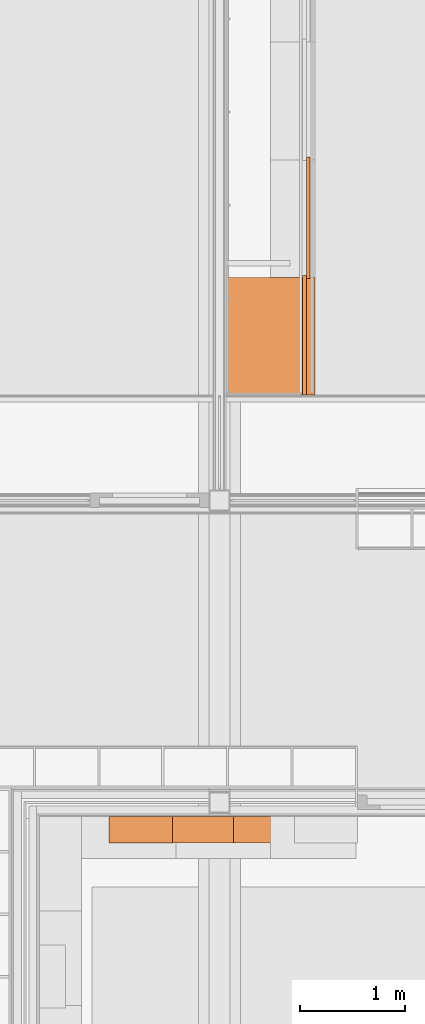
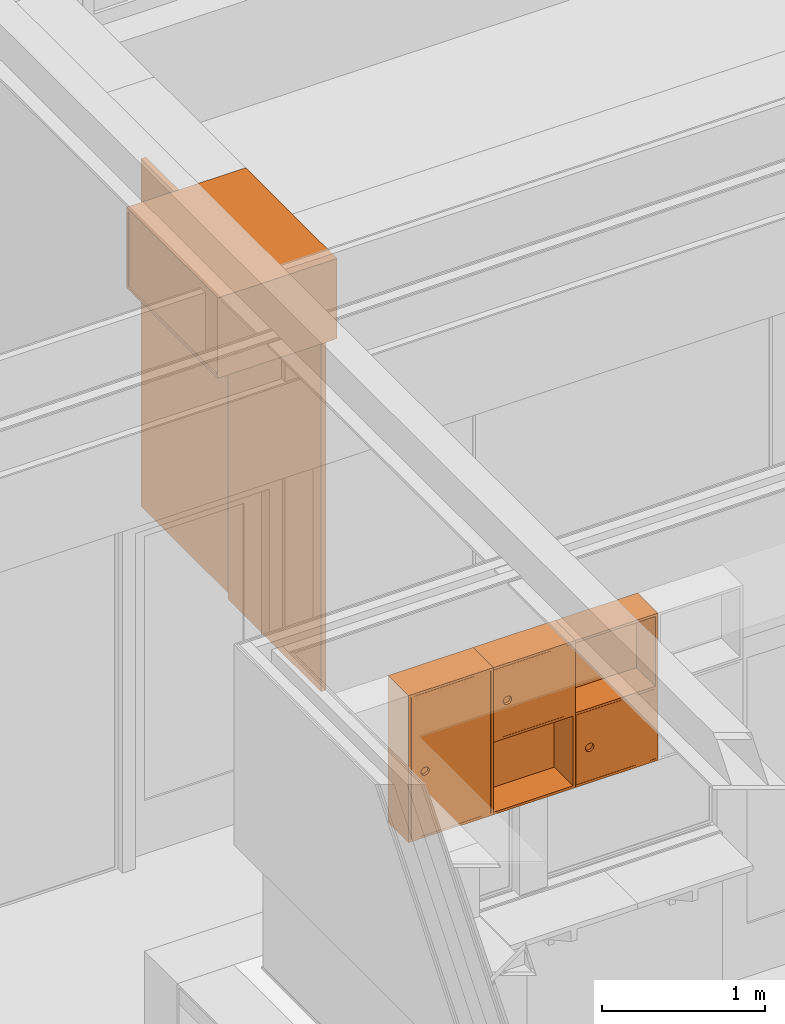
# One storey, part 124 of 137: 6 proxies.
"""IFC2X3 building model written with IfcOpenShell, lengths in millimetres."""

from ifc_helpers import new_model, entity, si_unit, converted_unit, derived_unit, money_unit, direction, frame, origin_with_axes, place, context, subcontext, project, spatial, faceted_brep, source, transform, mapped, type_object, type_shapes, element, save


model = new_model("IFC2X3")

# Units and contexts
model_context = context("Model", 3, precision=0.01, world=origin_with_axes(), true_north=direction((0.0, 1.0)))
body_context = subcontext(model_context, "Body", "Model", "MODEL_VIEW")
ifc_project = project(units=[si_unit("LENGTHUNIT", "METRE", prefix="MILLI"), si_unit("AREAUNIT", "SQUARE_METRE"), si_unit("VOLUMEUNIT", "CUBIC_METRE"), converted_unit("PLANEANGLEUNIT", "DEGREE", entity("IfcPlaneAngleMeasure", 0.0174532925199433), si_unit("PLANEANGLEUNIT", "RADIAN"), dimensions=[0, 0, 0, 0, 0, 0, 0]), money_unit("EUR"), converted_unit("TIMEUNIT", "Year", entity("IfcTimeMeasure", 31556926.0), si_unit("TIMEUNIT", "SECOND"), dimensions=[0, 0, 1, 0, 0, 0, 0]), si_unit("MASSUNIT", "GRAM", prefix="KILO"), si_unit("THERMODYNAMICTEMPERATUREUNIT", "DEGREE_CELSIUS"), si_unit("LUMINOUSINTENSITYUNIT", "LUMEN"), si_unit("ENERGYUNIT", "JOULE", prefix="MEGA"), derived_unit("THERMALCONDUCTANCEUNIT", [(si_unit("POWERUNIT", "WATT"), 1), (si_unit("LENGTHUNIT", "METRE"), -1), (si_unit("THERMODYNAMICTEMPERATUREUNIT", "KELVIN"), -1)]), derived_unit("SPECIFICHEATCAPACITYUNIT", [(si_unit("ENERGYUNIT", "JOULE"), 1), (si_unit("MASSUNIT", "GRAM", prefix="KILO"), -1), (si_unit("THERMODYNAMICTEMPERATUREUNIT", "KELVIN"), -1)]), derived_unit("MASSDENSITYUNIT", [(si_unit("MASSUNIT", "GRAM", prefix="KILO"), 1), (si_unit("VOLUMEUNIT", "CUBIC_METRE"), -1)])], contexts=[model_context])

# Site, building, storey
site_placement = place(None, origin_with_axes())
site = spatial("IfcSite", under=ifc_project, at=site_placement, Name="Site", CompositionType="ELEMENT")
building_placement = place(site_placement, origin_with_axes())
building = spatial("IfcBuilding", under=site, at=building_placement, Name="Naam gebouw", CompositionType="ELEMENT")
storey_placement = place(building_placement, frame((0.0, 0.0, 3960.0), z_axis=(0.0, 0.0, 1.0), x_axis=(1.0, 0.0, 0.0)))
storey = spatial("IfcBuildingStorey", under=building, at=storey_placement, Name="1e verdieping", CompositionType="ELEMENT", Elevation=3960.0)

# Proxies
building_element_proxy_type_1 = type_object("IfcBuildingElementProxyType", Name="gevelbekleding", PredefinedType="NOTDEFINED")
shared_shape_1 = source(origin_with_axes(), body_context, "Body", "Brep", [
    faceted_brep([(577.5, 0.0, 0.0), (577.5, -35.0, 0.0), (572.5, -35.0, 0.0), (572.5, 0.0, 0.0), (577.5, 0.0, 2600.0), (577.5, -35.0, 2600.0), (572.5, -35.0, 2600.0), (572.5, 0.0, 2600.0)], [[[0, 1, 2, 3]], [[4, 5, 1, 0]], [[1, 5, 6, 2]], [[3, 2, 6, 7]], [[0, 3, 7, 4]], [[7, 6, 5, 4]]]),
    faceted_brep([(-577.5, 0.0, 0.0), (-577.5, -35.0, 0.0), (-577.5, -35.0, 2600.0), (-577.5, 0.0, 2600.0), (-572.5000000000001, 0.0, 0.0), (-572.5000000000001, -35.0, 0.0), (-572.5000000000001, -35.0, 2600.0), (-572.5000000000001, 0.0, 2600.0)], [[[0, 1, 2, 3]], [[4, 5, 1, 0]], [[1, 5, 6, 2]], [[3, 2, 6, 7]], [[0, 3, 7, 4]], [[7, 6, 5, 4]]]),
    faceted_brep([(577.5, 0.0, 0.0), (577.5, -35.0, 0.0), (-577.5, -35.0, 0.0), (-577.5, 0.0, 0.0), (577.5, 0.0, 2600.0), (577.5, -35.0, 2600.0), (-577.5, -35.0, 2600.0), (-577.5, 0.0, 2600.0)], [[[0, 1, 2, 3]], [[4, 5, 1, 0]], [[1, 5, 6, 2]], [[3, 2, 6, 7]], [[0, 3, 7, 4]], [[7, 6, 5, 4]]]),
])
proxy_1_placement = place(storey_placement, frame((18562.49942456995, 25592.99991880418, 0.0), z_axis=(0.0, 0.0, 1.0), x_axis=(0.0, -1.0, 0.0)))
element("IfcBuildingElementProxy", 1, at=proxy_1_placement, inside=storey, type_object=building_element_proxy_type_1, Name="_-", context=body_context, shape_type="MappedRepresentation", body=[
    mapped(shared_shape_1, transform((577.5000000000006, 0.0, 0.0))),
])
shared_shape_2 = source(origin_with_axes(), body_context, "Body", "Brep", [
    faceted_brep([(-570.0, 0.0, 0.0), (-565.0, 0.0, 0.0), (-565.0, -35.0, 0.0), (-570.0, -35.0, 0.0), (-570.0, 0.0, 2600.0), (-565.0, 0.0, 2600.0), (-565.0, -35.0, 2600.0), (-570.0, -35.0, 2600.0)], [[[0, 1, 2, 3]], [[0, 4, 5, 1]], [[1, 5, 6, 2]], [[3, 2, 6, 7]], [[4, 0, 3, 7]], [[5, 4, 7, 6]]]),
    faceted_brep([(570.0, 0.0, 0.0), (570.0, 0.0, 2600.0), (570.0, -35.0, 2600.0), (570.0, -35.0, 0.0), (565.0000000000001, 0.0, 0.0), (565.0000000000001, 0.0, 2600.0), (565.0000000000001, -35.0, 2600.0), (565.0000000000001, -35.0, 0.0)], [[[0, 1, 2, 3]], [[0, 4, 5, 1]], [[1, 5, 6, 2]], [[3, 2, 6, 7]], [[4, 0, 3, 7]], [[5, 4, 7, 6]]]),
    faceted_brep([(-570.0, 0.0, 0.0), (570.0, 0.0, 0.0), (570.0, -35.0, 0.0), (-570.0, -35.0, 0.0), (-570.0, 0.0, 2600.0), (570.0, 0.0, 2600.0), (570.0, -35.0, 2600.0), (-570.0, -35.0, 2600.0)], [[[0, 1, 2, 3]], [[0, 4, 5, 1]], [[1, 5, 6, 2]], [[3, 2, 6, 7]], [[4, 0, 3, 7]], [[5, 4, 7, 6]]]),
])
type_shapes(building_element_proxy_type_1, [shared_shape_1, shared_shape_2])
proxy_2_placement = place(storey_placement, frame((18562.49942456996, 24467.99984810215, 0.0), z_axis=(0.0, 0.0, 1.0), x_axis=(0.0, -1.0, 0.0)))
element("IfcBuildingElementProxy", 2, at=proxy_2_placement, inside=storey, type_object=building_element_proxy_type_1, Name="_-", context=body_context, shape_type="MappedRepresentation", body=[
    mapped(shared_shape_2, transform((570.0000000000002, -34.99999999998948, 0.0))),
])
building_element_proxy_type_2 = type_object("IfcBuildingElementProxyType", Name="Onderkast recht 26", PredefinedType="NOTDEFINED")
shared_shape_3 = source(origin_with_axes(), body_context, "Body", "Brep", [
    faceted_brep([(-1.0, -827.0, 1.0), (-1.0, -845.0, 1.000000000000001), (-1119.000141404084, -845.0, 1.000000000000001), (-1119.000141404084, -827.0, 1.0), (-1.0, -827.0, 599.0), (-1.0, -845.0, 599.0), (-1119.000141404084, -845.0, 599.0), (-1119.000141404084, -827.0, 599.0)], [[[0, 1, 2, 3]], [[4, 5, 1, 0]], [[1, 5, 6, 2]], [[3, 2, 6, 7]], [[0, 3, 7, 4]], [[7, 6, 5, 4]]]),
    faceted_brep([(-18.0, -827.0, 0.0), (-18.0, -827.0, 18.0), (-1102.000141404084, -827.0, 18.0), (-1102.000141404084, -827.0, 0.0), (-18.0, 0.0, 0.0), (-18.0, 0.0, 18.0), (-1102.000141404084, 0.0, 18.0), (-1102.000141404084, 0.0, 0.0)], [[[0, 1, 2, 3]], [[4, 5, 1, 0]], [[1, 5, 6, 2]], [[3, 2, 6, 7]], [[0, 3, 7, 4]], [[7, 6, 5, 4]]]),
    faceted_brep([(-18.0, -827.0, 582.0), (-18.0, -827.0, 600.0), (-1102.000141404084, -827.0, 600.0), (-1102.000141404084, -827.0, 582.0), (-18.0, 0.0, 582.0), (-18.0, 0.0, 600.0), (-1102.000141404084, 0.0, 600.0), (-1102.000141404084, 0.0, 582.0)], [[[0, 1, 2, 3]], [[4, 5, 1, 0]], [[1, 5, 6, 2]], [[3, 2, 6, 7]], [[0, 3, 7, 4]], [[7, 6, 5, 4]]]),
    faceted_brep([(0.0, 0.0, 0.0), (0.0, 0.0, 600.0), (0.0, -827.0, 600.0), (0.0, -827.0, 0.0), (-18.0, 0.0, 0.0), (-18.0, 0.0, 600.0), (-18.0, -827.0, 600.0), (-18.0, -827.0, 0.0)], [[[0, 1, 2, 3]], [[4, 5, 1, 0]], [[1, 5, 6, 2]], [[3, 2, 6, 7]], [[0, 3, 7, 4]], [[7, 6, 5, 4]]]),
    faceted_brep([(-1120.000141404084, -827.0, 0.0), (-1120.000141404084, -827.0, 600.0), (-1120.000141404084, 0.0, 600.0), (-1120.000141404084, 0.0, 0.0), (-1102.000141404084, -827.0, 0.0), (-1102.000141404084, -827.0, 600.0), (-1102.000141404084, 0.0, 600.0), (-1102.000141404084, 0.0, 0.0)], [[[0, 1, 2, 3]], [[4, 5, 1, 0]], [[1, 5, 6, 2]], [[3, 2, 6, 7]], [[0, 3, 7, 4]], [[7, 6, 5, 4]]]),
    faceted_brep([(-1102.000141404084, -9.0, 18.0), (-1102.000141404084, -9.0, 582.0), (-18.00000000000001, -9.0, 582.0), (-18.00000000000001, -9.0, 18.0), (-1102.000141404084, -18.0, 18.0), (-1102.000141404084, -18.0, 582.0), (-18.00000000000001, -18.0, 582.0), (-18.00000000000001, -18.0, 18.0)], [[[0, 1, 2, 3]], [[4, 5, 1, 0]], [[1, 5, 6, 2]], [[3, 2, 6, 7]], [[0, 3, 7, 4]], [[7, 6, 5, 4]]]),
])
proxy_3_placement = place(storey_placement, frame((17762.49942456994, 24447.99942285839, 2600.0), z_axis=(0.0, 0.0, 1.0), x_axis=(0.0, 1.0, 0.0)))
element("IfcBuildingElementProxy", 3, at=proxy_3_placement, inside=storey, type_object=building_element_proxy_type_2, Name="_Leeg", context=body_context, shape_type="MappedRepresentation", body=[
    mapped(shared_shape_3, transform((0.0, 0.0, 0.0))),
])
shared_shape_4 = source(origin_with_axes(), body_context, "Body", "Brep", [
    faceted_brep([(-18.0, -232.0, 541.0000000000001), (-18.0, -232.0, 559.0000000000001), (-581.9999999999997, -232.0, 559.0000000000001), (-581.9999999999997, -232.0, 541.0000000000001), (-18.0, -18.0, 541.0000000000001), (-18.0, -18.0, 559.0000000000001), (-581.9999999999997, -18.0, 559.0000000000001), (-581.9999999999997, -18.0, 541.0000000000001)], [[[0, 1, 2, 3]], [[4, 5, 1, 0]], [[1, 5, 6, 2]], [[3, 2, 6, 7]], [[0, 3, 7, 4]], [[7, 6, 5, 4]]]),
    faceted_brep([(-580.9999999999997, -250.0, 19.00000000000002), (-19.00000000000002, -250.0, 19.00000000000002), (-19.00000000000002, -249.9999999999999, 1081.0), (-580.9999999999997, -249.9999999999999, 1081.0), (-511.1907786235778, -250.0, 505.761783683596), (-508.9807621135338, -250.0, 510.501179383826), (-505.98133329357, -250.0, 514.7848076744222), (-502.2836282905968, -250.0, 518.4825126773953), (-498.0000000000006, -250.0, 521.481941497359), (-493.2606042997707, -250.0, 523.6919580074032), (-488.2094453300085, -250.0, 525.0454119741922), (-483.0000000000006, -250.0, 525.501179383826), (-477.7905546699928, -250.0, 525.0454119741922), (-472.7393957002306, -250.0, 523.6919580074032), (-468.0000000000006, -250.0, 521.4819414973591), (-463.7163717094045, -250.0, 518.4825126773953), (-460.0186667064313, -250.0, 514.7848076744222), (-457.0192378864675, -250.0, 510.501179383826), (-454.8092213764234, -250.0, 505.761783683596), (-453.4557674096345, -250.0, 500.7106247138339), (-453.0000000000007, -250.0, 495.501179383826), (-453.4557674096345, -250.0, 490.2917340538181), (-454.8092213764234, -250.0, 485.2405750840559), (-457.0192378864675, -250.0, 480.501179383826), (-460.0186667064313, -250.0, 476.2175510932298), (-463.7163717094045, -250.0, 472.5198460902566), (-468.0000000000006, -250.0, 469.5204172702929), (-472.7393957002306, -250.0, 467.3104007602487), (-477.7905546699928, -250.0, 465.9569467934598), (-483.0000000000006, -250.0, 465.501179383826), (-488.2094453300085, -250.0, 465.9569467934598), (-493.2606042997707, -250.0, 467.3104007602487), (-498.0000000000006, -250.0, 469.5204172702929), (-502.2836282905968, -250.0, 472.5198460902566), (-505.98133329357, -250.0, 476.2175510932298), (-508.9807621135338, -250.0, 480.501179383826), (-511.1907786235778, -250.0, 485.2405750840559), (-512.5442325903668, -250.0, 490.2917340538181), (-513.0000000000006, -250.0, 495.501179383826), (-512.5442325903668, -250.0, 500.7106247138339), (-580.9999999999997, -232.0, 19.00000000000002), (-19.00000000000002, -232.0, 19.00000000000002), (-19.00000000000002, -231.9999999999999, 1081.0), (-580.9999999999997, -231.9999999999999, 1081.0), (-508.9807621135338, -232.0, 510.501179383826), (-511.1907786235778, -232.0, 505.761783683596), (-505.98133329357, -232.0, 514.7848076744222), (-502.2836282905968, -232.0, 518.4825126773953), (-498.0000000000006, -232.0, 521.481941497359), (-493.2606042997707, -232.0, 523.6919580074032), (-488.2094453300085, -232.0, 525.0454119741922), (-483.0000000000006, -232.0, 525.501179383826), (-477.7905546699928, -232.0, 525.0454119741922), (-472.7393957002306, -232.0, 523.6919580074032), (-468.0000000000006, -232.0, 521.4819414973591), (-463.7163717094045, -232.0, 518.4825126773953), (-460.0186667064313, -232.0, 514.7848076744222), (-457.0192378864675, -232.0, 510.501179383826), (-454.8092213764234, -232.0, 505.761783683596), (-453.4557674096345, -232.0, 500.7106247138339), (-453.0000000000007, -232.0, 495.501179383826), (-453.4557674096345, -232.0, 490.2917340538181), (-454.8092213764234, -232.0, 485.2405750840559), (-457.0192378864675, -232.0, 480.501179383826), (-460.0186667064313, -232.0, 476.2175510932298), (-463.7163717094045, -232.0, 472.5198460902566), (-468.0000000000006, -232.0, 469.5204172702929), (-472.7393957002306, -232.0, 467.3104007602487), (-477.7905546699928, -232.0, 465.9569467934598), (-483.0000000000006, -232.0, 465.501179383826), (-488.2094453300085, -232.0, 465.9569467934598), (-493.2606042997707, -232.0, 467.3104007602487), (-498.0000000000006, -232.0, 469.5204172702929), (-502.2836282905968, -232.0, 472.5198460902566), (-505.98133329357, -232.0, 476.2175510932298), (-508.9807621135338, -232.0, 480.501179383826), (-511.1907786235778, -232.0, 485.2405750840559), (-512.5442325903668, -232.0, 490.2917340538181), (-513.0000000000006, -232.0, 495.501179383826), (-512.5442325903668, -232.0, 500.7106247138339)], [[[0, 1, 2, 3], [4, 5, 6, 7, 8, 9, 10, 11, 12, 13, 14, 15, 16, 17, 18, 19, 20, 21, 22, 23, 24, 25, 26, 27, 28, 29, 30, 31, 32, 33, 34, 35, 36, 37, 38, 39]], [[40, 41, 1, 0]], [[41, 42, 2, 1]], [[42, 43, 3, 2]], [[43, 40, 0, 3]], [[44, 5, 4, 45]], [[46, 6, 5, 44]], [[47, 7, 6, 46]], [[48, 8, 7, 47]], [[49, 9, 8, 48]], [[50, 10, 9, 49]], [[51, 11, 10, 50]], [[52, 12, 11, 51]], [[53, 13, 12, 52]], [[54, 14, 13, 53]], [[55, 15, 14, 54]], [[56, 16, 15, 55]], [[57, 17, 16, 56]], [[58, 18, 17, 57]], [[59, 19, 18, 58]], [[60, 20, 19, 59]], [[61, 21, 20, 60]], [[62, 22, 21, 61]], [[63, 23, 22, 62]], [[64, 24, 23, 63]], [[65, 25, 24, 64]], [[66, 26, 25, 65]], [[67, 27, 26, 66]], [[68, 28, 27, 67]], [[69, 29, 28, 68]], [[70, 30, 29, 69]], [[71, 31, 30, 70]], [[72, 32, 31, 71]], [[73, 33, 32, 72]], [[74, 34, 33, 73]], [[75, 35, 34, 74]], [[76, 36, 35, 75]], [[77, 37, 36, 76]], [[78, 38, 37, 77]], [[79, 39, 38, 78]], [[45, 4, 39, 79]], [[42, 41, 40, 43], [76, 75, 74, 73, 72, 71, 70, 69, 68, 67, 66, 65, 64, 63, 62, 61, 60, 59, 58, 57, 56, 55, 54, 53, 52, 51, 50, 49, 48, 47, 46, 44, 45, 79, 78, 77]]]),
    faceted_brep([(-18.0, -250.0, 0.0), (-18.0, -250.0, 18.0), (-581.9999999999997, -250.0, 18.0), (-581.9999999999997, -250.0, 0.0), (-18.0, 0.0, 0.0), (-18.0, 0.0, 18.0), (-581.9999999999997, 0.0, 18.0), (-581.9999999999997, 0.0, 0.0)], [[[0, 1, 2, 3]], [[4, 5, 1, 0]], [[1, 5, 6, 2]], [[3, 2, 6, 7]], [[0, 3, 7, 4]], [[7, 6, 5, 4]]]),
    faceted_brep([(-18.0, -250.0, 1082.0), (-18.0, -250.0, 1100.0), (-581.9999999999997, -250.0, 1100.0), (-581.9999999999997, -250.0, 1082.0), (-18.0, 0.0, 1082.0), (-18.0, 0.0, 1100.0), (-581.9999999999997, 0.0, 1100.0), (-581.9999999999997, 0.0, 1082.0)], [[[0, 1, 2, 3]], [[4, 5, 1, 0]], [[1, 5, 6, 2]], [[3, 2, 6, 7]], [[0, 3, 7, 4]], [[7, 6, 5, 4]]]),
    faceted_brep([(0.0, 0.0, 0.0), (0.0, 0.0, 1100.0), (0.0, -250.0, 1100.0), (0.0, -250.0, 0.0), (-18.0, 0.0, 0.0), (-18.0, 0.0, 1100.0), (-18.0, -250.0, 1100.0), (-18.0, -250.0, 0.0)], [[[0, 1, 2, 3]], [[4, 5, 1, 0]], [[1, 5, 6, 2]], [[3, 2, 6, 7]], [[0, 3, 7, 4]], [[7, 6, 5, 4]]]),
    faceted_brep([(-599.9999999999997, -250.0, 0.0), (-599.9999999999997, -250.0, 1100.0), (-599.9999999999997, 0.0, 1100.0), (-599.9999999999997, 0.0, 0.0), (-581.9999999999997, -250.0, 0.0), (-581.9999999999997, -250.0, 1100.0), (-581.9999999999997, 0.0, 1100.0), (-581.9999999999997, 0.0, 0.0)], [[[0, 1, 2, 3]], [[4, 5, 1, 0]], [[1, 5, 6, 2]], [[3, 2, 6, 7]], [[0, 3, 7, 4]], [[7, 6, 5, 4]]]),
    faceted_brep([(-581.9999999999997, -9.0, 18.0), (-581.9999999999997, -9.0, 1082.0), (-18.00000000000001, -9.0, 1082.0), (-18.00000000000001, -9.0, 18.0), (-581.9999999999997, -18.0, 18.0), (-581.9999999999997, -18.0, 1082.0), (-18.00000000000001, -18.0, 1082.0), (-18.00000000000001, -18.0, 18.0)], [[[0, 1, 2, 3]], [[4, 5, 1, 0]], [[1, 5, 6, 2]], [[3, 2, 6, 7]], [[0, 3, 7, 4]], [[7, 6, 5, 4]]]),
])
proxy_4_placement = place(storey_placement, frame((17250.99945671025, 19314.9998112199, 2100.000000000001), z_axis=(0.0, 0.0, 1.0), x_axis=(1.0, 0.0, 0.0)))
element("IfcBuildingElementProxy", 4, at=proxy_4_placement, inside=storey, type_object=building_element_proxy_type_2, Name="_Leeg", context=body_context, shape_type="MappedRepresentation", body=[
    mapped(shared_shape_4, transform((0.0, 0.0, 0.0))),
])
shared_shape_5 = source(origin_with_axes(), body_context, "Body", "Brep", [
    faceted_brep([(-18.0, -250.0, 541.0000000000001), (-18.0, -250.0, 559.0000000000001), (-581.9999999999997, -250.0, 559.0000000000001), (-581.9999999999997, -250.0, 541.0000000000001), (-18.0, -18.0, 541.0000000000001), (-18.0, -18.0, 559.0000000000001), (-581.9999999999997, -18.0, 559.0000000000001), (-581.9999999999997, -18.0, 541.0000000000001)], [[[0, 1, 2, 3]], [[4, 5, 1, 0]], [[1, 5, 6, 2]], [[3, 2, 6, 7]], [[0, 3, 7, 4]], [[7, 6, 5, 4]]]),
    faceted_brep([(-580.9999999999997, -250.0, 19.00000000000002), (-19.00000000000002, -250.0, 19.00000000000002), (-19.00000000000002, -250.0, 540.0000000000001), (-580.9999999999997, -250.0, 540.0000000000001), (-511.1907786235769, -250.0, 275.7606042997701), (-508.9807621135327, -250.0, 280.5), (-505.981333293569, -250.0, 284.7836282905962), (-502.2836282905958, -250.0, 288.4813332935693), (-497.9999999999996, -250.0, 291.4807621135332), (-493.2606042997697, -250.0, 293.6907786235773), (-488.2094453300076, -250.0, 295.0442325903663), (-482.9999999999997, -250.0, 295.5000000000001), (-477.7905546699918, -250.0, 295.0442325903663), (-472.7393957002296, -250.0, 293.6907786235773), (-467.9999999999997, -250.0, 291.4807621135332), (-463.7163717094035, -250.0, 288.4813332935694), (-460.0186667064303, -250.0, 284.7836282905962), (-457.0192378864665, -250.0, 280.5000000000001), (-454.8092213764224, -250.0, 275.7606042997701), (-453.4557674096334, -250.0, 270.709445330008), (-452.9999999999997, -250.0, 265.5000000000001), (-453.4557674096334, -250.0, 260.2905546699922), (-454.8092213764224, -250.0, 255.23939570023), (-457.0192378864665, -250.0, 250.5000000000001), (-460.0186667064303, -250.0, 246.2163717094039), (-463.7163717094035, -250.0, 242.5186667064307), (-467.9999999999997, -250.0, 239.5192378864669), (-472.7393957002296, -250.0, 237.3092213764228), (-477.7905546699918, -250.0, 235.9557674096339), (-482.9999999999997, -250.0, 235.5000000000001), (-488.2094453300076, -250.0, 235.9557674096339), (-493.2606042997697, -250.0, 237.3092213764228), (-497.9999999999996, -250.0, 239.519237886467), (-502.2836282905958, -250.0, 242.5186667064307), (-505.981333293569, -250.0, 246.2163717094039), (-508.9807621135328, -250.0, 250.5000000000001), (-511.1907786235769, -250.0, 255.23939570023), (-512.5442325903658, -250.0, 260.2905546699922), (-512.9999999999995, -250.0, 265.5000000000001), (-512.5442325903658, -250.0, 270.709445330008), (-580.9999999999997, -232.0, 19.00000000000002), (-19.00000000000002, -232.0, 19.00000000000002), (-19.00000000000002, -232.0, 540.0000000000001), (-580.9999999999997, -232.0, 540.0000000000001), (-508.9807621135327, -232.0, 280.5), (-511.1907786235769, -232.0, 275.7606042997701), (-505.981333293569, -232.0, 284.7836282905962), (-502.2836282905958, -232.0, 288.4813332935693), (-497.9999999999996, -232.0, 291.4807621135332), (-493.2606042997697, -232.0, 293.6907786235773), (-488.2094453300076, -232.0, 295.0442325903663), (-482.9999999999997, -232.0, 295.5000000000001), (-477.7905546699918, -232.0, 295.0442325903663), (-472.7393957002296, -232.0, 293.6907786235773), (-467.9999999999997, -232.0, 291.4807621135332), (-463.7163717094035, -232.0, 288.4813332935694), (-460.0186667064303, -232.0, 284.7836282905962), (-457.0192378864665, -232.0, 280.5000000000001), (-454.8092213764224, -232.0, 275.7606042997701), (-453.4557674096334, -232.0, 270.709445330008), (-452.9999999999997, -232.0, 265.5000000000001), (-453.4557674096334, -232.0, 260.2905546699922), (-454.8092213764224, -232.0, 255.23939570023), (-457.0192378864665, -232.0, 250.5000000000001), (-460.0186667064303, -232.0, 246.2163717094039), (-463.7163717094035, -232.0, 242.5186667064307), (-467.9999999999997, -232.0, 239.5192378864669), (-472.7393957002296, -232.0, 237.3092213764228), (-477.7905546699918, -232.0, 235.9557674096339), (-482.9999999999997, -232.0, 235.5000000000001), (-488.2094453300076, -232.0, 235.9557674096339), (-493.2606042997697, -232.0, 237.3092213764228), (-497.9999999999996, -232.0, 239.519237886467), (-502.2836282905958, -232.0, 242.5186667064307), (-505.981333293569, -232.0, 246.2163717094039), (-508.9807621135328, -232.0, 250.5000000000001), (-511.1907786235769, -232.0, 255.23939570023), (-512.5442325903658, -232.0, 260.2905546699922), (-512.9999999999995, -232.0, 265.5000000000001), (-512.5442325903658, -232.0, 270.709445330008)], [[[0, 1, 2, 3], [4, 5, 6, 7, 8, 9, 10, 11, 12, 13, 14, 15, 16, 17, 18, 19, 20, 21, 22, 23, 24, 25, 26, 27, 28, 29, 30, 31, 32, 33, 34, 35, 36, 37, 38, 39]], [[40, 41, 1, 0]], [[41, 42, 2, 1]], [[42, 43, 3, 2]], [[43, 40, 0, 3]], [[44, 5, 4, 45]], [[46, 6, 5, 44]], [[47, 7, 6, 46]], [[48, 8, 7, 47]], [[49, 9, 8, 48]], [[50, 10, 9, 49]], [[51, 11, 10, 50]], [[52, 12, 11, 51]], [[53, 13, 12, 52]], [[54, 14, 13, 53]], [[55, 15, 14, 54]], [[56, 16, 15, 55]], [[57, 17, 16, 56]], [[58, 18, 17, 57]], [[59, 19, 18, 58]], [[60, 20, 19, 59]], [[61, 21, 20, 60]], [[62, 22, 21, 61]], [[63, 23, 22, 62]], [[64, 24, 23, 63]], [[65, 25, 24, 64]], [[66, 26, 25, 65]], [[67, 27, 26, 66]], [[68, 28, 27, 67]], [[69, 29, 28, 68]], [[70, 30, 29, 69]], [[71, 31, 30, 70]], [[72, 32, 31, 71]], [[73, 33, 32, 72]], [[74, 34, 33, 73]], [[75, 35, 34, 74]], [[76, 36, 35, 75]], [[77, 37, 36, 76]], [[78, 38, 37, 77]], [[79, 39, 38, 78]], [[45, 4, 39, 79]], [[42, 41, 40, 43], [76, 75, 74, 73, 72, 71, 70, 69, 68, 67, 66, 65, 64, 63, 62, 61, 60, 59, 58, 57, 56, 55, 54, 53, 52, 51, 50, 49, 48, 47, 46, 44, 45, 79, 78, 77]]]),
    faceted_brep([(-18.0, -250.0, 0.0), (-18.0, -250.0, 18.0), (-581.9999999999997, -250.0, 18.0), (-581.9999999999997, -250.0, 0.0), (-18.0, 0.0, 0.0), (-18.0, 0.0, 18.0), (-581.9999999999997, 0.0, 18.0), (-581.9999999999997, 0.0, 0.0)], [[[0, 1, 2, 3]], [[4, 5, 1, 0]], [[1, 5, 6, 2]], [[3, 2, 6, 7]], [[0, 3, 7, 4]], [[7, 6, 5, 4]]]),
    faceted_brep([(-18.0, -250.0, 1082.0), (-18.0, -250.0, 1100.0), (-581.9999999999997, -250.0, 1100.0), (-581.9999999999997, -250.0, 1082.0), (-18.0, 0.0, 1082.0), (-18.0, 0.0, 1100.0), (-581.9999999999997, 0.0, 1100.0), (-581.9999999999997, 0.0, 1082.0)], [[[0, 1, 2, 3]], [[4, 5, 1, 0]], [[1, 5, 6, 2]], [[3, 2, 6, 7]], [[0, 3, 7, 4]], [[7, 6, 5, 4]]]),
    faceted_brep([(0.0, 0.0, 0.0), (0.0, 0.0, 1100.0), (0.0, -250.0, 1100.0), (0.0, -250.0, 0.0), (-18.0, 0.0, 0.0), (-18.0, 0.0, 1100.0), (-18.0, -250.0, 1100.0), (-18.0, -250.0, 0.0)], [[[0, 1, 2, 3]], [[4, 5, 1, 0]], [[1, 5, 6, 2]], [[3, 2, 6, 7]], [[0, 3, 7, 4]], [[7, 6, 5, 4]]]),
    faceted_brep([(-599.9999999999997, -250.0, 0.0), (-599.9999999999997, -250.0, 1100.0), (-599.9999999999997, 0.0, 1100.0), (-599.9999999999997, 0.0, 0.0), (-581.9999999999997, -250.0, 0.0), (-581.9999999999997, -250.0, 1100.0), (-581.9999999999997, 0.0, 1100.0), (-581.9999999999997, 0.0, 0.0)], [[[0, 1, 2, 3]], [[4, 5, 1, 0]], [[1, 5, 6, 2]], [[3, 2, 6, 7]], [[0, 3, 7, 4]], [[7, 6, 5, 4]]]),
    faceted_brep([(-581.9999999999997, -9.0, 18.0), (-581.9999999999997, -9.0, 1082.0), (-18.00000000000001, -9.0, 1082.0), (-18.00000000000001, -9.0, 18.0), (-581.9999999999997, -18.0, 18.0), (-581.9999999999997, -18.0, 1082.0), (-18.00000000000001, -18.0, 1082.0), (-18.00000000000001, -18.0, 18.0)], [[[0, 1, 2, 3]], [[4, 5, 1, 0]], [[1, 5, 6, 2]], [[3, 2, 6, 7]], [[0, 3, 7, 4]], [[7, 6, 5, 4]]]),
])
proxy_5_placement = place(storey_placement, frame((18414.99945671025, 19314.9998112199, 2100.000000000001), z_axis=(0.0, 0.0, 1.0), x_axis=(1.0, 0.0, 0.0)))
element("IfcBuildingElementProxy", 5, at=proxy_5_placement, inside=storey, type_object=building_element_proxy_type_2, Name="_Leeg", context=body_context, shape_type="MappedRepresentation", body=[
    mapped(shared_shape_5, transform((0.0, 0.0, 0.0))),
])
shared_shape_6 = source(origin_with_axes(), body_context, "Body", "Brep", [
    faceted_brep([(-18.0, -250.0, 541.0000000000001), (-18.0, -250.0, 559.0000000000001), (-581.9999999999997, -250.0, 559.0000000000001), (-581.9999999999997, -250.0, 541.0000000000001), (-18.0, -18.0, 541.0000000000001), (-18.0, -18.0, 559.0000000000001), (-581.9999999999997, -18.0, 559.0000000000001), (-581.9999999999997, -18.0, 541.0000000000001)], [[[0, 1, 2, 3]], [[4, 5, 1, 0]], [[1, 5, 6, 2]], [[3, 2, 6, 7]], [[0, 3, 7, 4]], [[7, 6, 5, 4]]]),
    faceted_brep([(-580.9999999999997, -250.0, 560.0000000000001), (-19.00000000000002, -250.0, 560.0000000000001), (-19.00000000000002, -250.0, 1081.0), (-580.9999999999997, -250.0, 1081.0), (-511.1907786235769, -250.0, 831.7606042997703), (-508.9807621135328, -250.0, 836.5000000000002), (-505.981333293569, -250.0, 840.7836282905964), (-502.2836282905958, -250.0, 844.4813332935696), (-497.9999999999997, -250.0, 847.4807621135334), (-493.2606042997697, -250.0, 849.6907786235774), (-488.2094453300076, -250.0, 851.0442325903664), (-482.9999999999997, -250.0, 851.5000000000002), (-477.7905546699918, -250.0, 851.0442325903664), (-472.7393957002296, -250.0, 849.6907786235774), (-467.9999999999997, -250.0, 847.4807621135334), (-463.7163717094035, -250.0, 844.4813332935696), (-460.0186667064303, -250.0, 840.7836282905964), (-457.0192378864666, -250.0, 836.5000000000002), (-454.8092213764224, -250.0, 831.7606042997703), (-453.4557674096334, -250.0, 826.7094453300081), (-452.9999999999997, -250.0, 821.5000000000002), (-453.4557674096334, -250.0, 816.2905546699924), (-454.8092213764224, -250.0, 811.2393957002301), (-457.0192378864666, -250.0, 806.5000000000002), (-460.0186667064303, -250.0, 802.216371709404), (-463.7163717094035, -250.0, 798.5186667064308), (-467.9999999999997, -250.0, 795.5192378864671), (-472.7393957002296, -250.0, 793.309221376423), (-477.7905546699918, -250.0, 791.9557674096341), (-482.9999999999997, -250.0, 791.5000000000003), (-488.2094453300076, -250.0, 791.9557674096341), (-493.2606042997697, -250.0, 793.309221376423), (-497.9999999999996, -250.0, 795.5192378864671), (-502.2836282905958, -250.0, 798.5186667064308), (-505.981333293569, -250.0, 802.216371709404), (-508.9807621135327, -250.0, 806.5000000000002), (-511.1907786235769, -250.0, 811.2393957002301), (-512.5442325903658, -250.0, 816.2905546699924), (-512.9999999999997, -250.0, 821.5000000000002), (-512.5442325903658, -250.0, 826.7094453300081), (-580.9999999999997, -232.0, 560.0000000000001), (-19.00000000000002, -232.0, 560.0000000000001), (-19.00000000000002, -232.0, 1081.0), (-580.9999999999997, -232.0, 1081.0), (-508.9807621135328, -232.0, 836.5000000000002), (-511.1907786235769, -232.0, 831.7606042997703), (-505.981333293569, -232.0, 840.7836282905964), (-502.2836282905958, -232.0, 844.4813332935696), (-497.9999999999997, -232.0, 847.4807621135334), (-493.2606042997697, -232.0, 849.6907786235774), (-488.2094453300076, -232.0, 851.0442325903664), (-482.9999999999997, -232.0, 851.5000000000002), (-477.7905546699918, -232.0, 851.0442325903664), (-472.7393957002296, -232.0, 849.6907786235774), (-467.9999999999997, -232.0, 847.4807621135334), (-463.7163717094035, -232.0, 844.4813332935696), (-460.0186667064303, -232.0, 840.7836282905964), (-457.0192378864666, -232.0, 836.5000000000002), (-454.8092213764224, -232.0, 831.7606042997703), (-453.4557674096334, -232.0, 826.7094453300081), (-452.9999999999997, -232.0, 821.5000000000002), (-453.4557674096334, -232.0, 816.2905546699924), (-454.8092213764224, -232.0, 811.2393957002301), (-457.0192378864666, -232.0, 806.5000000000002), (-460.0186667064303, -232.0, 802.216371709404), (-463.7163717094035, -232.0, 798.5186667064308), (-467.9999999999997, -232.0, 795.5192378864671), (-472.7393957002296, -232.0, 793.309221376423), (-477.7905546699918, -232.0, 791.9557674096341), (-482.9999999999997, -232.0, 791.5000000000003), (-488.2094453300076, -232.0, 791.9557674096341), (-493.2606042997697, -232.0, 793.309221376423), (-497.9999999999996, -232.0, 795.5192378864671), (-502.2836282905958, -232.0, 798.5186667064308), (-505.981333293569, -232.0, 802.216371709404), (-508.9807621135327, -232.0, 806.5000000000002), (-511.1907786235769, -232.0, 811.2393957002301), (-512.5442325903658, -232.0, 816.2905546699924), (-512.9999999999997, -232.0, 821.5000000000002), (-512.5442325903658, -232.0, 826.7094453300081)], [[[0, 1, 2, 3], [4, 5, 6, 7, 8, 9, 10, 11, 12, 13, 14, 15, 16, 17, 18, 19, 20, 21, 22, 23, 24, 25, 26, 27, 28, 29, 30, 31, 32, 33, 34, 35, 36, 37, 38, 39]], [[40, 41, 1, 0]], [[41, 42, 2, 1]], [[42, 43, 3, 2]], [[43, 40, 0, 3]], [[44, 5, 4, 45]], [[46, 6, 5, 44]], [[47, 7, 6, 46]], [[48, 8, 7, 47]], [[49, 9, 8, 48]], [[50, 10, 9, 49]], [[51, 11, 10, 50]], [[52, 12, 11, 51]], [[53, 13, 12, 52]], [[54, 14, 13, 53]], [[55, 15, 14, 54]], [[56, 16, 15, 55]], [[57, 17, 16, 56]], [[58, 18, 17, 57]], [[59, 19, 18, 58]], [[60, 20, 19, 59]], [[61, 21, 20, 60]], [[62, 22, 21, 61]], [[63, 23, 22, 62]], [[64, 24, 23, 63]], [[65, 25, 24, 64]], [[66, 26, 25, 65]], [[67, 27, 26, 66]], [[68, 28, 27, 67]], [[69, 29, 28, 68]], [[70, 30, 29, 69]], [[71, 31, 30, 70]], [[72, 32, 31, 71]], [[73, 33, 32, 72]], [[74, 34, 33, 73]], [[75, 35, 34, 74]], [[76, 36, 35, 75]], [[77, 37, 36, 76]], [[78, 38, 37, 77]], [[79, 39, 38, 78]], [[45, 4, 39, 79]], [[42, 41, 40, 43], [76, 75, 74, 73, 72, 71, 70, 69, 68, 67, 66, 65, 64, 63, 62, 61, 60, 59, 58, 57, 56, 55, 54, 53, 52, 51, 50, 49, 48, 47, 46, 44, 45, 79, 78, 77]]]),
    faceted_brep([(-18.0, -250.0, 0.0), (-18.0, -250.0, 18.0), (-581.9999999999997, -250.0, 18.0), (-581.9999999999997, -250.0, 0.0), (-18.0, 0.0, 0.0), (-18.0, 0.0, 18.0), (-581.9999999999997, 0.0, 18.0), (-581.9999999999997, 0.0, 0.0)], [[[0, 1, 2, 3]], [[4, 5, 1, 0]], [[1, 5, 6, 2]], [[3, 2, 6, 7]], [[0, 3, 7, 4]], [[7, 6, 5, 4]]]),
    faceted_brep([(-18.0, -250.0, 1082.0), (-18.0, -250.0, 1100.0), (-581.9999999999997, -250.0, 1100.0), (-581.9999999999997, -250.0, 1082.0), (-18.0, 0.0, 1082.0), (-18.0, 0.0, 1100.0), (-581.9999999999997, 0.0, 1100.0), (-581.9999999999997, 0.0, 1082.0)], [[[0, 1, 2, 3]], [[4, 5, 1, 0]], [[1, 5, 6, 2]], [[3, 2, 6, 7]], [[0, 3, 7, 4]], [[7, 6, 5, 4]]]),
    faceted_brep([(0.0, 0.0, 0.0), (0.0, 0.0, 1100.0), (0.0, -250.0, 1100.0), (0.0, -250.0, 0.0), (-18.0, 0.0, 0.0), (-18.0, 0.0, 1100.0), (-18.0, -250.0, 1100.0), (-18.0, -250.0, 0.0)], [[[0, 1, 2, 3]], [[4, 5, 1, 0]], [[1, 5, 6, 2]], [[3, 2, 6, 7]], [[0, 3, 7, 4]], [[7, 6, 5, 4]]]),
    faceted_brep([(-599.9999999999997, -250.0, 0.0), (-599.9999999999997, -250.0, 1100.0), (-599.9999999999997, 0.0, 1100.0), (-599.9999999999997, 0.0, 0.0), (-581.9999999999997, -250.0, 0.0), (-581.9999999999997, -250.0, 1100.0), (-581.9999999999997, 0.0, 1100.0), (-581.9999999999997, 0.0, 0.0)], [[[0, 1, 2, 3]], [[4, 5, 1, 0]], [[1, 5, 6, 2]], [[3, 2, 6, 7]], [[0, 3, 7, 4]], [[7, 6, 5, 4]]]),
    faceted_brep([(-581.9999999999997, -9.0, 18.0), (-581.9999999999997, -9.0, 1082.0), (-18.00000000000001, -9.0, 1082.0), (-18.00000000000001, -9.0, 18.0), (-581.9999999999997, -18.0, 18.0), (-581.9999999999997, -18.0, 1082.0), (-18.00000000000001, -18.0, 1082.0), (-18.00000000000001, -18.0, 18.0)], [[[0, 1, 2, 3]], [[4, 5, 1, 0]], [[1, 5, 6, 2]], [[3, 2, 6, 7]], [[0, 3, 7, 4]], [[7, 6, 5, 4]]]),
])
type_shapes(building_element_proxy_type_2, [shared_shape_3, shared_shape_4, shared_shape_6, shared_shape_5])
proxy_6_placement = place(storey_placement, frame((17832.99945671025, 19314.9998112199, 2100.000000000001), z_axis=(0.0, 0.0, 1.0), x_axis=(1.0, 0.0, 0.0)))
element("IfcBuildingElementProxy", 6, at=proxy_6_placement, inside=storey, type_object=building_element_proxy_type_2, Name="_Leeg", context=body_context, shape_type="MappedRepresentation", body=[
    mapped(shared_shape_6, transform((0.0, 0.0, 0.0))),
])

save(model, "model.ifc")
